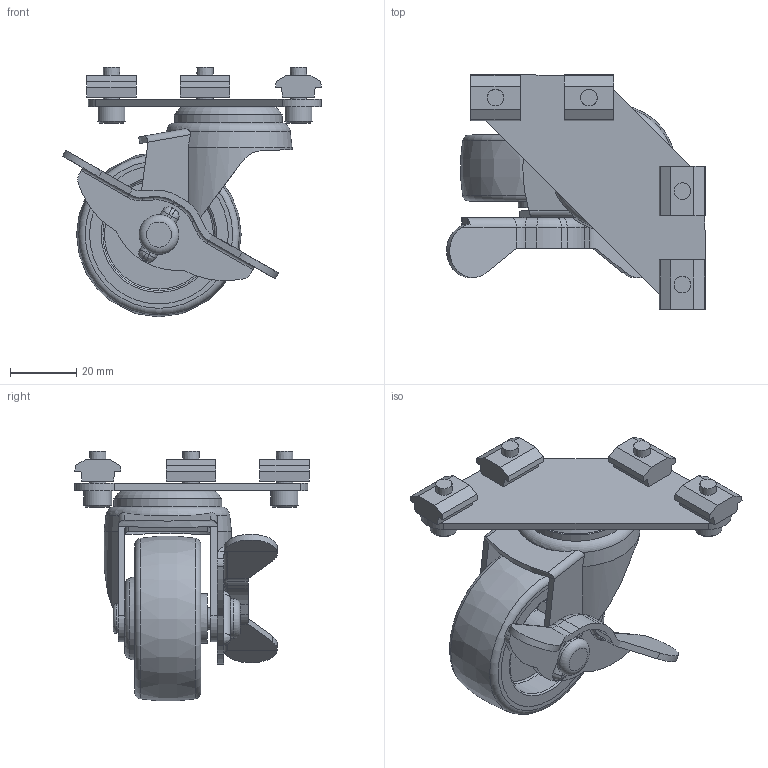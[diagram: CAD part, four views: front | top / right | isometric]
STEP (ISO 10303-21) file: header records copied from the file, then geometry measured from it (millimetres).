
FILE_DESCRIPTION(('STEP AP214'),'1');
FILE_NAME('CAP5-UR40.stp','2017-03-20T06:46:25',(' '),(' '),'Spatial InterOp 3D',' ',' ');
FILE_SCHEMA(('automotive_design'));
Length unit declared in the file: millimetre
Products named in the file (9): CAP5-UR40; NF40-M5; CAP5-UR; CAP5ﾌﾟﾚｰﾄ; _____188; CAP5車輪; CAP5ﾎﾞﾃﾞｨｰ
Assembly tree (14 placements, depth 4):
  CAP5-UR40
    (unnamed)  x4
    NF40-M5  x4
    CAP5-UR
      CAP5ﾌﾟﾚｰﾄ
      _____188
        CAP5車輪
        CAP5車輪
        CAP5ﾎﾞﾃﾞｨｰ
Bounding box: 78.4 x 71.07 x 75.62 mm (x, y, z)
Volume: 59083.9 mm3; surface area: 37196.2 mm2
Topology: 12 solids, 12 shells, 281 faces, 673 edges, 432 vertices
Faces by surface type: plane 170, cylinder 68, torus 27, cone 11, bspline 5
Full cylindrical faces by diameter (mm): 5 x4, 5.2 x4, 6.5 x1, 8.385 x4, 9 x1, 12 x1, 15 x2, 32 x1, 32.6 x1, 34 x2, 42 x2
Entity records: 7881 total; most frequent: CARTESIAN_POINT 1326, DIRECTION 1036, ORIENTED_EDGE 912, EDGE_CURVE 456, AXIS2_PLACEMENT_3D 399, VERTEX_POINT 309, EDGE_LOOP 259, LINE 238
